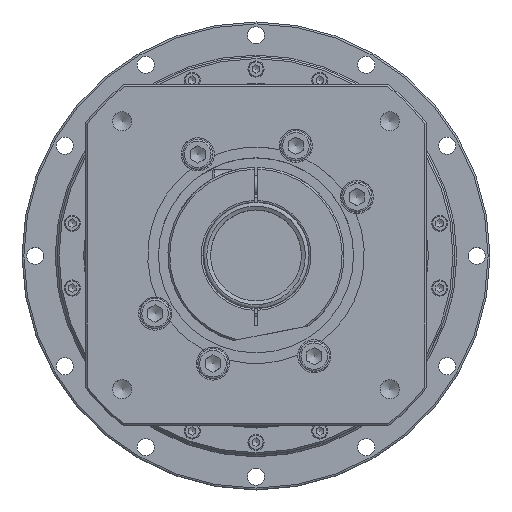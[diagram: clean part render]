
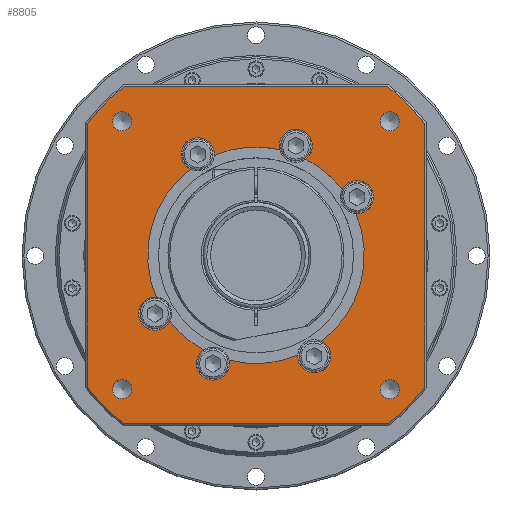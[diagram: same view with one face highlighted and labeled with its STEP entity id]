
A CAD part, top view. The second image highlights one B-rep face of the part: STEP entity #8805.
In plain terms, the highlighted planar face has unit normal (0, 0, 1).
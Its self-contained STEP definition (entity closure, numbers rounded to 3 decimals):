
#7607=CARTESIAN_POINT('',(75.764,70.711,272.25));
#7608=VERTEX_POINT('',#7607);
#7609=CARTESIAN_POINT('',(70.711,70.711,272.25));
#7610=DIRECTION('',(0.0,0.0,-1.0));
#7611=DIRECTION('',(1.0,0.0,0.0));
#7612=AXIS2_PLACEMENT_3D('',#7609,#7610,#7611);
#7613=CIRCLE('',#7612,5.053);
#7614=EDGE_CURVE('',#7608,#7608,#7613,.T.);
#7644=CARTESIAN_POINT('',(70.711,-75.764,272.25));
#7645=VERTEX_POINT('',#7644);
#7646=CARTESIAN_POINT('',(70.711,-70.711,272.25));
#7647=DIRECTION('',(0.0,0.0,-1.0));
#7648=DIRECTION('',(0.0,-1.0,0.0));
#7649=AXIS2_PLACEMENT_3D('',#7646,#7647,#7648);
#7650=CIRCLE('',#7649,5.053);
#7651=EDGE_CURVE('',#7645,#7645,#7650,.T.);
#7681=CARTESIAN_POINT('',(-75.764,-70.711,272.25));
#7682=VERTEX_POINT('',#7681);
#7683=CARTESIAN_POINT('',(-70.711,-70.711,272.25));
#7684=DIRECTION('',(0.0,0.0,-1.0));
#7685=DIRECTION('',(-1.0,0.0,0.0));
#7686=AXIS2_PLACEMENT_3D('',#7683,#7684,#7685);
#7687=CIRCLE('',#7686,5.053);
#7688=EDGE_CURVE('',#7682,#7682,#7687,.T.);
#7718=CARTESIAN_POINT('',(-70.711,75.764,272.25));
#7719=VERTEX_POINT('',#7718);
#7720=CARTESIAN_POINT('',(-70.711,70.711,272.25));
#7721=DIRECTION('',(0.0,0.0,-1.0));
#7722=DIRECTION('',(0.0,1.0,0.0));
#7723=AXIS2_PLACEMENT_3D('',#7720,#7721,#7722);
#7724=CIRCLE('',#7723,5.053);
#7725=EDGE_CURVE('',#7719,#7719,#7724,.T.);
#7755=CARTESIAN_POINT('',(22.016,-52.739,272.25));
#7756=VERTEX_POINT('',#7755);
#7774=CARTESIAN_POINT('',(-14.151,-55.37,272.25));
#7775=VERTEX_POINT('',#7774);
#7782=CARTESIAN_POINT('',(0.,0.,272.25));
#7783=DIRECTION('',(0.0,0.0,-1.0));
#7784=DIRECTION('',(-1.0,0.0,0.0));
#7785=AXIS2_PLACEMENT_3D('',#7782,#7783,#7784);
#7786=CIRCLE('',#7785,57.15);
#7787=EDGE_CURVE('',#7756,#7775,#7786,.T.);
#7799=CARTESIAN_POINT('',(34.666,-45.436,272.25));
#7800=VERTEX_POINT('',#7799);
#7807=CARTESIAN_POINT('',(52.739,22.016,272.25));
#7808=VERTEX_POINT('',#7807);
#7809=CARTESIAN_POINT('',(0.,0.,272.25));
#7810=DIRECTION('',(0.0,0.0,-1.0));
#7811=DIRECTION('',(-1.0,0.0,0.0));
#7812=AXIS2_PLACEMENT_3D('',#7809,#7810,#7811);
#7813=CIRCLE('',#7812,57.15);
#7814=EDGE_CURVE('',#7808,#7800,#7813,.T.);
#7839=CARTESIAN_POINT('',(-27.725,-49.974,272.25));
#7840=VERTEX_POINT('',#7839);
#7858=CARTESIAN_POINT('',(-45.436,-34.666,272.25));
#7859=VERTEX_POINT('',#7858);
#7866=CARTESIAN_POINT('',(0.,0.,272.25));
#7867=DIRECTION('',(0.0,0.0,-1.0));
#7868=DIRECTION('',(-1.0,0.0,0.0));
#7869=AXIS2_PLACEMENT_3D('',#7866,#7867,#7868);
#7870=CIRCLE('',#7869,57.15);
#7871=EDGE_CURVE('',#7840,#7859,#7870,.T.);
#7881=CARTESIAN_POINT('',(-52.739,-22.016,272.25));
#7882=VERTEX_POINT('',#7881);
#7900=CARTESIAN_POINT('',(-34.666,45.436,272.25));
#7901=VERTEX_POINT('',#7900);
#7908=CARTESIAN_POINT('',(0.,0.,272.25));
#7909=DIRECTION('',(0.0,0.0,-1.0));
#7910=DIRECTION('',(-1.0,0.0,0.0));
#7911=AXIS2_PLACEMENT_3D('',#7908,#7909,#7910);
#7912=CIRCLE('',#7911,57.15);
#7913=EDGE_CURVE('',#7882,#7901,#7912,.T.);
#7925=CARTESIAN_POINT('',(45.436,34.666,272.25));
#7926=VERTEX_POINT('',#7925);
#7933=CARTESIAN_POINT('',(26.249,50.765,272.25));
#7934=VERTEX_POINT('',#7933);
#7935=CARTESIAN_POINT('',(0.,0.,272.25));
#7936=DIRECTION('',(0.0,0.0,-1.0));
#7937=DIRECTION('',(-1.0,0.0,0.0));
#7938=AXIS2_PLACEMENT_3D('',#7935,#7936,#7937);
#7939=CIRCLE('',#7938,57.15);
#7940=EDGE_CURVE('',#7934,#7926,#7939,.T.);
#7967=CARTESIAN_POINT('',(12.523,55.761,272.25));
#7968=VERTEX_POINT('',#7967);
#7975=CARTESIAN_POINT('',(-22.016,52.739,272.25));
#7976=VERTEX_POINT('',#7975);
#7977=CARTESIAN_POINT('',(0.,0.,272.25));
#7978=DIRECTION('',(0.0,0.0,-1.0));
#7979=DIRECTION('',(-1.0,0.0,0.0));
#7980=AXIS2_PLACEMENT_3D('',#7977,#7978,#7979);
#7981=CIRCLE('',#7980,57.15);
#7982=EDGE_CURVE('',#7976,#7968,#7981,.T.);
#8098=CARTESIAN_POINT('',(-30.75,53.261,272.25));
#8099=DIRECTION('',(0.0,0.0,-1.0));
#8100=DIRECTION('',(1.0,0.0,0.0));
#8101=AXIS2_PLACEMENT_3D('',#8098,#8099,#8100);
#8102=CIRCLE('',#8101,8.75);
#8103=EDGE_CURVE('',#7901,#7976,#8102,.T.);
#8139=CARTESIAN_POINT('',(21.034,57.791,272.25));
#8140=DIRECTION('',(0.0,0.0,-1.0));
#8141=DIRECTION('',(1.0,0.0,0.0));
#8142=AXIS2_PLACEMENT_3D('',#8139,#8140,#8141);
#8143=CIRCLE('',#8142,8.75);
#8144=EDGE_CURVE('',#7968,#7934,#8143,.T.);
#8159=CARTESIAN_POINT('',(53.261,30.75,272.25));
#8160=DIRECTION('',(0.0,0.0,-1.0));
#8161=DIRECTION('',(1.0,0.0,0.0));
#8162=AXIS2_PLACEMENT_3D('',#8159,#8160,#8161);
#8163=CIRCLE('',#8162,8.75);
#8164=EDGE_CURVE('',#7926,#7808,#8163,.T.);
#8229=CARTESIAN_POINT('',(-53.261,-30.75,272.25));
#8230=DIRECTION('',(0.0,0.0,-1.0));
#8231=DIRECTION('',(1.0,0.0,0.0));
#8232=AXIS2_PLACEMENT_3D('',#8229,#8230,#8231);
#8233=CIRCLE('',#8232,8.75);
#8234=EDGE_CURVE('',#7859,#7882,#8233,.T.);
#8270=CARTESIAN_POINT('',(-22.718,-57.15,272.25));
#8271=DIRECTION('',(0.0,0.0,-1.0));
#8272=DIRECTION('',(1.0,0.0,0.0));
#8273=AXIS2_PLACEMENT_3D('',#8270,#8271,#8272);
#8274=CIRCLE('',#8273,8.75);
#8275=EDGE_CURVE('',#7775,#7840,#8274,.T.);
#8319=CARTESIAN_POINT('',(30.75,-53.261,272.25));
#8320=DIRECTION('',(0.0,0.0,-1.0));
#8321=DIRECTION('',(1.0,0.0,0.0));
#8322=AXIS2_PLACEMENT_3D('',#8319,#8320,#8321);
#8323=CIRCLE('',#8322,8.75);
#8324=EDGE_CURVE('',#7800,#7756,#8323,.T.);
#8704=CARTESIAN_POINT('',(0.,0.,272.25));
#8705=DIRECTION('',(0.0,0.0,1.0));
#8706=DIRECTION('',(1.0,0.0,0.0));
#8707=AXIS2_PLACEMENT_3D('',#8704,#8705,#8706);
#8708=PLANE('',#8707);
#8709=CARTESIAN_POINT('',(-89.,-69.628,272.25));
#8710=VERTEX_POINT('',#8709);
#8711=CARTESIAN_POINT('',(-89.,69.628,272.25));
#8712=VERTEX_POINT('',#8711);
#8713=CARTESIAN_POINT('',(-89.,-69.628,272.25));
#8714=DIRECTION('',(0.0,1.0,0.0));
#8715=VECTOR('',#8714,139.255);
#8716=LINE('',#8713,#8715);
#8717=EDGE_CURVE('',#8710,#8712,#8716,.T.);
#8718=ORIENTED_EDGE('',*,*,#8717,.F.);
#8719=CARTESIAN_POINT('',(-69.628,-89.,272.25));
#8720=VERTEX_POINT('',#8719);
#8721=CARTESIAN_POINT('',(0.,0.,272.25));
#8722=DIRECTION('',(0.0,0.0,-1.0));
#8723=DIRECTION('',(-1.0,0.0,0.0));
#8724=AXIS2_PLACEMENT_3D('',#8721,#8722,#8723);
#8725=CIRCLE('',#8724,113.0);
#8726=EDGE_CURVE('',#8720,#8710,#8725,.T.);
#8727=ORIENTED_EDGE('',*,*,#8726,.F.);
#8728=CARTESIAN_POINT('',(69.628,-89.,272.25));
#8729=VERTEX_POINT('',#8728);
#8730=CARTESIAN_POINT('',(69.628,-89.,272.25));
#8731=DIRECTION('',(-1.0,0.0,0.0));
#8732=VECTOR('',#8731,139.255);
#8733=LINE('',#8730,#8732);
#8734=EDGE_CURVE('',#8729,#8720,#8733,.T.);
#8735=ORIENTED_EDGE('',*,*,#8734,.F.);
#8736=CARTESIAN_POINT('',(89.0,-69.628,272.25));
#8737=VERTEX_POINT('',#8736);
#8738=CARTESIAN_POINT('',(0.,0.,272.25));
#8739=DIRECTION('',(0.0,0.0,-1.0));
#8740=DIRECTION('',(1.0,0.0,0.0));
#8741=AXIS2_PLACEMENT_3D('',#8738,#8739,#8740);
#8742=CIRCLE('',#8741,113.);
#8743=EDGE_CURVE('',#8737,#8729,#8742,.T.);
#8744=ORIENTED_EDGE('',*,*,#8743,.F.);
#8745=CARTESIAN_POINT('',(89.,69.628,272.25));
#8746=VERTEX_POINT('',#8745);
#8747=CARTESIAN_POINT('',(89.,69.628,272.25));
#8748=DIRECTION('',(0.0,-1.0,0.0));
#8749=VECTOR('',#8748,139.255);
#8750=LINE('',#8747,#8749);
#8751=EDGE_CURVE('',#8746,#8737,#8750,.T.);
#8752=ORIENTED_EDGE('',*,*,#8751,.F.);
#8753=CARTESIAN_POINT('',(69.628,89.,272.25));
#8754=VERTEX_POINT('',#8753);
#8755=CARTESIAN_POINT('',(0.,0.,272.25));
#8756=DIRECTION('',(0.0,0.0,-1.0));
#8757=DIRECTION('',(1.0,0.0,0.0));
#8758=AXIS2_PLACEMENT_3D('',#8755,#8756,#8757);
#8759=CIRCLE('',#8758,113.);
#8760=EDGE_CURVE('',#8754,#8746,#8759,.T.);
#8761=ORIENTED_EDGE('',*,*,#8760,.F.);
#8762=CARTESIAN_POINT('',(-69.628,89.,272.25));
#8763=VERTEX_POINT('',#8762);
#8764=CARTESIAN_POINT('',(-69.628,89.,272.25));
#8765=DIRECTION('',(1.0,0.0,0.0));
#8766=VECTOR('',#8765,139.255);
#8767=LINE('',#8764,#8766);
#8768=EDGE_CURVE('',#8763,#8754,#8767,.T.);
#8769=ORIENTED_EDGE('',*,*,#8768,.F.);
#8770=CARTESIAN_POINT('',(0.,0.,272.25));
#8771=DIRECTION('',(0.0,0.0,-1.0));
#8772=DIRECTION('',(-1.0,0.0,0.0));
#8773=AXIS2_PLACEMENT_3D('',#8770,#8771,#8772);
#8774=CIRCLE('',#8773,113.0);
#8775=EDGE_CURVE('',#8712,#8763,#8774,.T.);
#8776=ORIENTED_EDGE('',*,*,#8775,.F.);
#8777=EDGE_LOOP('',(#8718,#8727,#8735,#8744,#8752,#8761,#8769,#8776));
#8778=FACE_OUTER_BOUND('',#8777,.T.);
#8779=ORIENTED_EDGE('',*,*,#7614,.T.);
#8780=EDGE_LOOP('',(#8779));
#8781=FACE_BOUND('',#8780,.T.);
#8782=ORIENTED_EDGE('',*,*,#7651,.T.);
#8783=EDGE_LOOP('',(#8782));
#8784=FACE_BOUND('',#8783,.T.);
#8785=ORIENTED_EDGE('',*,*,#7688,.T.);
#8786=EDGE_LOOP('',(#8785));
#8787=FACE_BOUND('',#8786,.T.);
#8788=ORIENTED_EDGE('',*,*,#7725,.T.);
#8789=EDGE_LOOP('',(#8788));
#8790=FACE_BOUND('',#8789,.T.);
#8791=ORIENTED_EDGE('',*,*,#8324,.T.);
#8792=ORIENTED_EDGE('',*,*,#7787,.T.);
#8793=ORIENTED_EDGE('',*,*,#8275,.T.);
#8794=ORIENTED_EDGE('',*,*,#7871,.T.);
#8795=ORIENTED_EDGE('',*,*,#8234,.T.);
#8796=ORIENTED_EDGE('',*,*,#7913,.T.);
#8797=ORIENTED_EDGE('',*,*,#8103,.T.);
#8798=ORIENTED_EDGE('',*,*,#7982,.T.);
#8799=ORIENTED_EDGE('',*,*,#8144,.T.);
#8800=ORIENTED_EDGE('',*,*,#7940,.T.);
#8801=ORIENTED_EDGE('',*,*,#8164,.T.);
#8802=ORIENTED_EDGE('',*,*,#7814,.T.);
#8803=EDGE_LOOP('',(#8791,#8792,#8793,#8794,#8795,#8796,#8797,#8798,#8799,#8800,#8801,#8802));
#8804=FACE_BOUND('',#8803,.T.);
#8805=ADVANCED_FACE('',(#8778,#8781,#8784,#8787,#8790,#8804),#8708,.T.);
